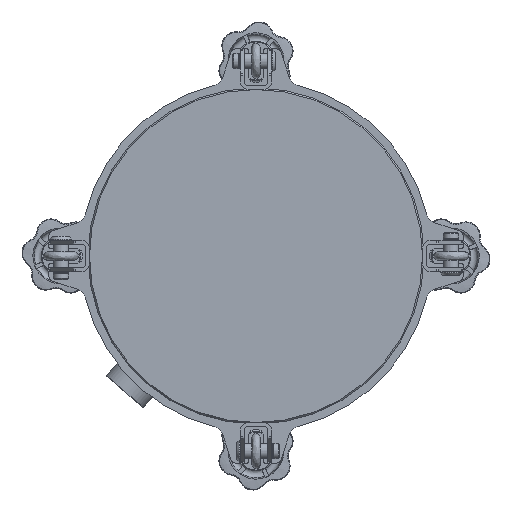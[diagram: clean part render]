
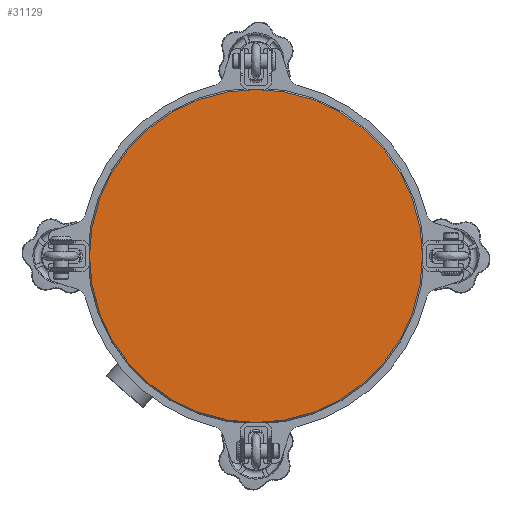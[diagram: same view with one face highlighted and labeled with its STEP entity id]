
A CAD part, front view. The second image highlights one B-rep face of the part: STEP entity #31129.
In plain terms, the highlighted planar face has unit normal (0, -1, 0).
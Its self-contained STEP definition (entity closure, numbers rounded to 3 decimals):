
#4480 = ORIENTED_EDGE ( 'NONE', *, *, #45743, .F. ) ;
#6493 = DIRECTION ( 'NONE',  ( 0., 1., 0. ) ) ;
#14399 = AXIS2_PLACEMENT_3D ( 'NONE', #23193, #6493, #64515 ) ;
#19874 = CIRCLE ( 'NONE', #34431, 128. ) ;
#23193 = CARTESIAN_POINT ( 'NONE',  ( 0., 0., 0. ) ) ;
#31129 = ADVANCED_FACE ( 'NONE', ( #47086 ), #70217, .F. ) ;
#32734 = CARTESIAN_POINT ( 'NONE',  ( 0., 0., 0. ) ) ;
#33805 = EDGE_LOOP ( 'NONE', ( #4480 ) ) ;
#34431 = AXIS2_PLACEMENT_3D ( 'NONE', #32734, #61932, #50543 ) ;
#36118 = VERTEX_POINT ( 'NONE', #65704 ) ;
#45743 = EDGE_CURVE ( 'NONE', #36118, #36118, #19874, .T. ) ;
#47086 = FACE_OUTER_BOUND ( 'NONE', #33805, .T. ) ;
#50543 = DIRECTION ( 'NONE',  ( 0., 0., -1. ) ) ;
#61932 = DIRECTION ( 'NONE',  ( 0., 1., 0. ) ) ;
#64515 = DIRECTION ( 'NONE',  ( 0., 0., 1. ) ) ;
#65704 = CARTESIAN_POINT ( 'NONE',  ( 0., 0., -128. ) ) ;
#70217 = PLANE ( 'NONE',  #14399 ) ;
